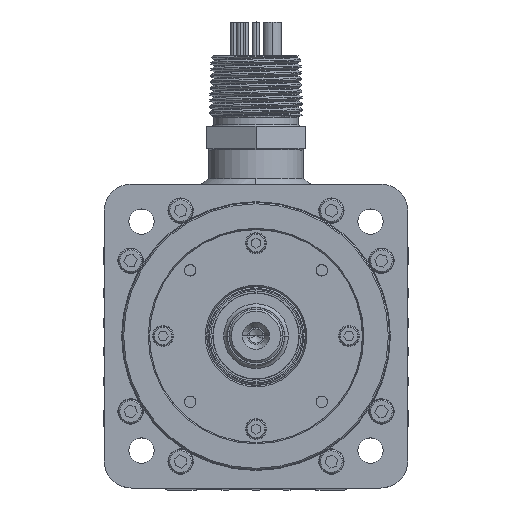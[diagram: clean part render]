
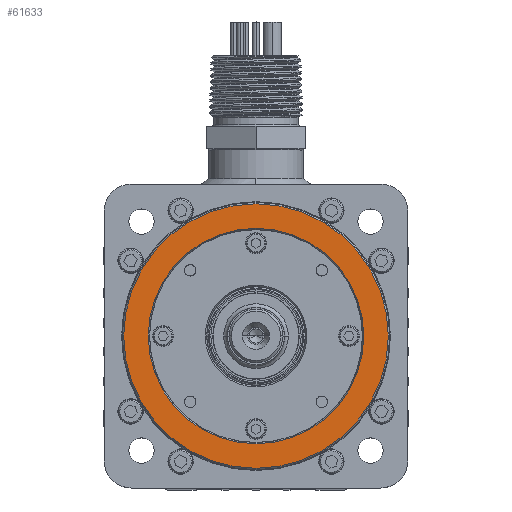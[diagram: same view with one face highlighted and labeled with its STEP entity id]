
A CAD part, top view. The second image highlights one B-rep face of the part: STEP entity #61633.
In plain terms, the highlighted planar face has unit normal (0, 0, 1).
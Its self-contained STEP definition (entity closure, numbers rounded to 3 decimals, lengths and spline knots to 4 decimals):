
#619 = CIRCLE ( 'NONE', #15317, 1.8501 ) ;
#3553 = AXIS2_PLACEMENT_3D ( 'NONE', #48809, #58647, #100659 ) ;
#3733 = DIRECTION ( 'NONE',  ( 0., 0., 1. ) ) ;
#3801 = DIRECTION ( 'NONE',  ( 1., 0., 0. ) ) ;
#12156 = EDGE_CURVE ( 'NONE', #122508, #99817, #76948, .T. ) ;
#15317 = AXIS2_PLACEMENT_3D ( 'NONE', #53002, #44441, #3801 ) ;
#16063 = CARTESIAN_POINT ( 'NONE',  ( 1.8501, 0., 0. ) ) ;
#18226 = EDGE_LOOP ( 'NONE', ( #74568, #115455 ) ) ;
#19593 = CIRCLE ( 'NONE', #92931, 1.5068 ) ;
#22923 = FACE_BOUND ( 'NONE', #47600, .T. ) ;
#22928 = ORIENTED_EDGE ( 'NONE', *, *, #65131, .F. ) ;
#24734 = CARTESIAN_POINT ( 'NONE',  ( 0., 0., 0. ) ) ;
#25054 = EDGE_CURVE ( 'NONE', #59829, #93532, #19593, .T. ) ;
#32752 = FACE_OUTER_BOUND ( 'NONE', #18226, .T. ) ;
#33399 = DIRECTION ( 'NONE',  ( 0., 0., 1. ) ) ;
#33919 = CARTESIAN_POINT ( 'NONE',  ( -1.5068, 0., 0. ) ) ;
#35323 = DIRECTION ( 'NONE',  ( 1., 0., 0. ) ) ;
#41845 = CIRCLE ( 'NONE', #77425, 1.5068 ) ;
#44441 = DIRECTION ( 'NONE',  ( 0., 0., 1. ) ) ;
#47600 = EDGE_LOOP ( 'NONE', ( #99844, #22928 ) ) ;
#48809 = CARTESIAN_POINT ( 'NONE',  ( 0., 0., 0. ) ) ;
#53002 = CARTESIAN_POINT ( 'NONE',  ( 0., 0., 0. ) ) ;
#54217 = AXIS2_PLACEMENT_3D ( 'NONE', #74024, #33399, #35323 ) ;
#58647 = DIRECTION ( 'NONE',  ( 0., 0., 1. ) ) ;
#59829 = VERTEX_POINT ( 'NONE', #87384 ) ;
#61250 = CARTESIAN_POINT ( 'NONE',  ( -1.8501, 0., 0. ) ) ;
#61514 = DIRECTION ( 'NONE',  ( 1., 0., 0. ) ) ;
#61633 = ADVANCED_FACE ( 'NONE', ( #32752, #22923 ), #62900, .T. ) ;
#62900 = PLANE ( 'NONE',  #54217 ) ;
#65131 = EDGE_CURVE ( 'NONE', #93532, #59829, #41845, .T. ) ;
#68265 = CARTESIAN_POINT ( 'NONE',  ( 0., 0., 0. ) ) ;
#70169 = EDGE_CURVE ( 'NONE', #99817, #122508, #619, .T. ) ;
#74024 = CARTESIAN_POINT ( 'NONE',  ( 0., 1.5068, 0. ) ) ;
#74568 = ORIENTED_EDGE ( 'NONE', *, *, #70169, .T. ) ;
#76492 = DIRECTION ( 'NONE',  ( 1., 0., 0. ) ) ;
#76948 = CIRCLE ( 'NONE', #3553, 1.8501 ) ;
#77425 = AXIS2_PLACEMENT_3D ( 'NONE', #24734, #3733, #76492 ) ;
#81231 = DIRECTION ( 'NONE',  ( 0., 0., 1. ) ) ;
#87384 = CARTESIAN_POINT ( 'NONE',  ( 1.5068, 0., 0. ) ) ;
#92931 = AXIS2_PLACEMENT_3D ( 'NONE', #68265, #81231, #61514 ) ;
#93532 = VERTEX_POINT ( 'NONE', #33919 ) ;
#99817 = VERTEX_POINT ( 'NONE', #61250 ) ;
#99844 = ORIENTED_EDGE ( 'NONE', *, *, #25054, .F. ) ;
#100659 = DIRECTION ( 'NONE',  ( 1., 0., 0. ) ) ;
#115455 = ORIENTED_EDGE ( 'NONE', *, *, #12156, .T. ) ;
#122508 = VERTEX_POINT ( 'NONE', #16063 ) ;
